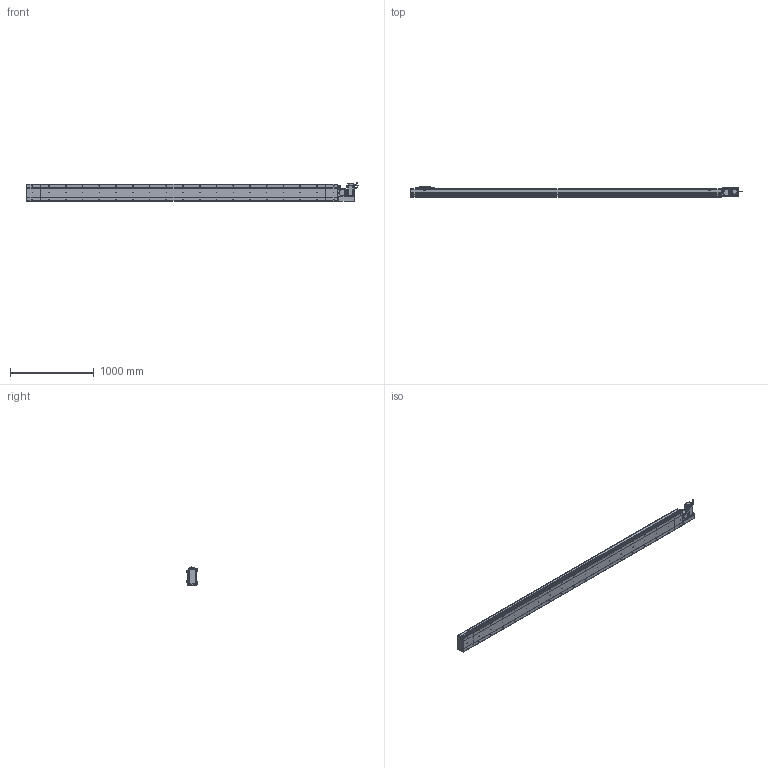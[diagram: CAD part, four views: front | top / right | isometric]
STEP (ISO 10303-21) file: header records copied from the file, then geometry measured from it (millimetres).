
FILE_DESCRIPTION (( 'STEP AP214' ), '1' );
FILE_NAME ('D20 CBH RH S3400.STEP', '2010-06-30T10:54:31', ( 'Conseil Régional Haute-Normandie' ), ( 'Conseil Régional Haute-Normandie' ), 'SwSTEP 2.0', 'SolidWorks 2010', '' );
FILE_SCHEMA (( 'AUTOMOTIVE_DESIGN' ));
Length unit declared in the file: millimetre
Products named in the file (31): Couvercle RH_Default; vis M5 L47_Default; Corp S3400_Default; Corp D20 S3400_Default; Couvercle S3400_Default; Chariot D20_Default; Support Chariot D20_Default; Corp Tail D20_Default; Glissiere_Default; Tail D20_Default; Couvercle_Default; Plaque de Bout Tail D20_Default; corps 90BLDC125A-640; codeur 90BLDC125-640; vis M5 L30_Default; Plaque de Bout Head D20 RH_Default; Conecteur2_Default; Corp Tail D20 RH_Default; D20 CBH RH S3400; Head D20 RH_Default; Cache Support Moteur RH_Default; Conecteur_Default; Plaque De Serrage D20_Default; vis M5 L15_Default; ecrou_Default; Plaque De Serrage D20 RH_Default; avant 90BLDC125A-640; Support moteur RH_Default; Rondelle Cache D20 RH_Default; Moteur motionking 90BLDC125A-640
Assembly tree (68 placements, depth 4):
  D20 CBH RH S3400
    Chariot D20_Default
      vis M5 L15_Default  x8
      Glissiere_Default
      Chariot D20_Default
      Support Chariot D20_Default
    Corp D20 S3400_Default
      Corp S3400_Default
      Couvercle S3400_Default
    Tail D20_Default
      Plaque De Serrage D20_Default
      vis M5 L15_Default  x6
      Corp Tail D20_Default
      Plaque de Bout Tail D20_Default
      Couvercle_Default
    Head D20 RH_Default
      vis M5 L15_Default  x14
      Rondelle Cache D20 RH_Default  x3
      Plaque De Serrage D20 RH_Default
      vis M5 L47_Default  x4
      Cache Support Moteur RH_Default
      ecrou_Default  x4
      Support moteur RH_Default
      vis M5 L30_Default  x4
      Corp Tail D20 RH_Default
      Couvercle RH_Default
      Plaque de Bout Head D20 RH_Default
      Moteur motionking 90BLDC125A-640
        Conecteur_Default
        corps 90BLDC125A-640
        avant 90BLDC125A-640
        Conecteur2_Default
        codeur 90BLDC125-640
Bounding box: 3965.45 x 119.5 x 229.7 mm (x, y, z)
Volume: 25769117.1 mm3; surface area: 4934933.6 mm2
Topology: 105 solids, 105 shells, 3880 faces, 9624 edges, 6250 vertices
Faces by surface type: plane 2149, bspline 806, cylinder 754, torus 95, cone 72, sphere 4
Entity records: 161102 total; most frequent: CARTESIAN_POINT 82586, ORIENTED_EDGE 15516, DIRECTION 11950, EDGE_CURVE 7758, VERTEX_POINT 5134, LINE 4978, VECTOR 4978, AXIS2_PLACEMENT_3D 3486
